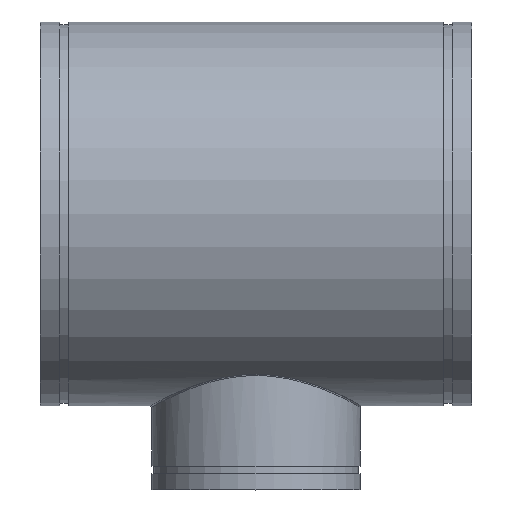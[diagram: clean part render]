
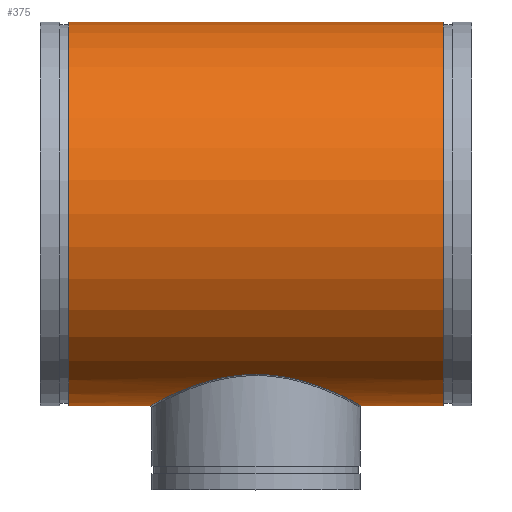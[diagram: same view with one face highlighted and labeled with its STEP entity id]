
A CAD part, top view. The second image highlights one B-rep face of the part: STEP entity #375.
In plain terms, the highlighted cylindrical face has radius 406.4 mm (diameter 812.8 mm), a full revolution.
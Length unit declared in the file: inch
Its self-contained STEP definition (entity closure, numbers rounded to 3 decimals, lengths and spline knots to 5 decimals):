
#54=FACE_BOUND('',#119,.T.);
#65=LINE('',#889,#76);
#76=VECTOR('',#483,16.);
#87=CYLINDRICAL_SURFACE('',#415,16.);
#98=FACE_OUTER_BOUND('',#118,.T.);
#118=EDGE_LOOP('',(#266,#267,#268,#269));
#119=EDGE_LOOP('',(#270));
#150=B_SPLINE_CURVE_WITH_KNOTS('',3,(#847,#848,#849,#850,#851,#852,#853,
#854,#855,#856,#857,#858,#859,#860,#861,#862,#863,#864,#865,#866,#867,#868,
#869,#870,#871,#872,#873,#874,#875,#876,#877,#878,#879,#880,#881,#882,#883,
#884),.UNSPECIFIED.,.T.,.F.,(4,1,1,1,1,1,1,1,1,1,1,1,1,1,1,1,1,1,1,1,1,
1,1,1,1,1,1,1,1,1,1,1,1,1,1,4),(-136.49966,-131.62467,-126.74968,
-121.87469,-116.99971,-112.12472,-109.68722,
-107.24973,-102.37474,-99.93725,-97.49976,-94.24976,
-90.99977,-84.49979,-77.9998,-74.74981,
-71.49982,-68.24983,-64.99984,-61.74985,
-58.49985,-51.99987,-45.49989,-38.9999,
-38.1874,-37.37491,-35.74991,-34.12491,
-32.49992,-30.87492,-25.99993,-19.49995,-14.62496,
-9.74998,-4.87499,0.),.UNSPECIFIED.);
#154=CIRCLE('',#416,16.);
#155=CIRCLE('',#417,16.);
#182=VERTEX_POINT('',#801);
#185=VERTEX_POINT('',#886);
#186=VERTEX_POINT('',#888);
#219=EDGE_CURVE('',#182,#182,#150,.T.);
#220=EDGE_CURVE('',#185,#185,#154,.T.);
#221=EDGE_CURVE('',#185,#186,#65,.T.);
#222=EDGE_CURVE('',#186,#186,#155,.T.);
#266=ORIENTED_EDGE('',*,*,#220,.T.);
#267=ORIENTED_EDGE('',*,*,#221,.T.);
#268=ORIENTED_EDGE('',*,*,#222,.T.);
#269=ORIENTED_EDGE('',*,*,#221,.F.);
#270=ORIENTED_EDGE('',*,*,#219,.F.);
#375=ADVANCED_FACE('',(#98,#54),#87,.T.);
#415=AXIS2_PLACEMENT_3D('',#885,#479,#480);
#416=AXIS2_PLACEMENT_3D('',#887,#481,#482);
#417=AXIS2_PLACEMENT_3D('',#890,#484,#485);
#479=DIRECTION('center_axis',(-1.,0.,0.));
#480=DIRECTION('ref_axis',(0.,-1.,0.));
#481=DIRECTION('center_axis',(1.,0.,0.));
#482=DIRECTION('ref_axis',(0.,-1.,0.));
#483=DIRECTION('',(1.,0.,0.));
#484=DIRECTION('center_axis',(-1.,0.,0.));
#485=DIRECTION('ref_axis',(0.,-1.,0.));
#801=CARTESIAN_POINT('',(0.,-13.39112,-8.75659));
#847=CARTESIAN_POINT('Ctrl Pts',(0.,-13.39112,
-8.75659));
#848=CARTESIAN_POINT('Ctrl Pts',(0.67452,-13.39112,-8.75659));
#849=CARTESIAN_POINT('Ctrl Pts',(2.02288,-13.49438,-8.6014));
#850=CARTESIAN_POINT('Ctrl Pts',(3.90254,-13.90575,-7.93444));
#851=CARTESIAN_POINT('Ctrl Pts',(5.55528,-14.45903,-6.89433));
#852=CARTESIAN_POINT('Ctrl Pts',(6.93465,-15.04284,-5.52987));
#853=CARTESIAN_POINT('Ctrl Pts',(7.81633,-15.47182,-4.15683));
#854=CARTESIAN_POINT('Ctrl Pts',(8.33072,-15.73604,-2.94509));
#855=CARTESIAN_POINT('Ctrl Pts',(8.70797,-15.9359,-1.67295));
#856=CARTESIAN_POINT('Ctrl Pts',(8.86403,-16.0214,-0.33478));
#857=CARTESIAN_POINT('Ctrl Pts',(8.78617,-15.97879,1.00389));
#858=CARTESIAN_POINT('Ctrl Pts',(8.59433,-15.87551,2.10051));
#859=CARTESIAN_POINT('Ctrl Pts',(8.22646,-15.68091,3.26005));
#860=CARTESIAN_POINT('Ctrl Pts',(7.45195,-15.28959,4.8296));
#861=CARTESIAN_POINT('Ctrl Pts',(6.08505,-14.65627,6.51386));
#862=CARTESIAN_POINT('Ctrl Pts',(4.29061,-14.01556,7.7377));
#863=CARTESIAN_POINT('Ctrl Pts',(2.65386,-13.62884,8.38606));
#864=CARTESIAN_POINT('Ctrl Pts',(1.34899,-13.43634,8.68795));
#865=CARTESIAN_POINT('Ctrl Pts',(0.,-13.36845,
8.79096));
#866=CARTESIAN_POINT('Ctrl Pts',(-1.34909,-13.43637,8.68793));
#867=CARTESIAN_POINT('Ctrl Pts',(-2.65387,-13.62882,8.38603));
#868=CARTESIAN_POINT('Ctrl Pts',(-4.29078,-14.01567,7.7377));
#869=CARTESIAN_POINT('Ctrl Pts',(-6.08498,-14.65615,6.51365));
#870=CARTESIAN_POINT('Ctrl Pts',(-7.72554,-15.41651,4.49311));
#871=CARTESIAN_POINT('Ctrl Pts',(-8.43479,-15.79072,2.74569));
#872=CARTESIAN_POINT('Ctrl Pts',(-8.66695,-15.91466,1.66063));
#873=CARTESIAN_POINT('Ctrl Pts',(-8.7436,-15.95591,1.22287));
#874=CARTESIAN_POINT('Ctrl Pts',(-8.80775,-15.99062,0.66929));
#875=CARTESIAN_POINT('Ctrl Pts',(-8.83365,-16.00471,0.00004));
#876=CARTESIAN_POINT('Ctrl Pts',(-8.80772,-15.9906,-0.66927));
#877=CARTESIAN_POINT('Ctrl Pts',(-8.67958,-15.92128,-1.77631));
#878=CARTESIAN_POINT('Ctrl Pts',(-8.20415,-15.66646,-3.49407));
#879=CARTESIAN_POINT('Ctrl Pts',(-7.08778,-15.10785,-5.37875));
#880=CARTESIAN_POINT('Ctrl Pts',(-5.55535,-14.45896,-6.89411));
#881=CARTESIAN_POINT('Ctrl Pts',(-3.9024,-13.90576,-7.93461));
#882=CARTESIAN_POINT('Ctrl Pts',(-2.02292,-13.49437,-8.60132));
#883=CARTESIAN_POINT('Ctrl Pts',(-0.67452,-13.39112,-8.75659));
#884=CARTESIAN_POINT('Ctrl Pts',(0.,-13.39112,
-8.75659));
#885=CARTESIAN_POINT('Origin',(18.,0.,0.));
#886=CARTESIAN_POINT('',(-15.625,16.,0.));
#887=CARTESIAN_POINT('Origin',(-15.625,0.,0.));
#888=CARTESIAN_POINT('',(15.625,16.,0.));
#889=CARTESIAN_POINT('',(18.,16.,0.));
#890=CARTESIAN_POINT('Origin',(15.625,0.,0.));
